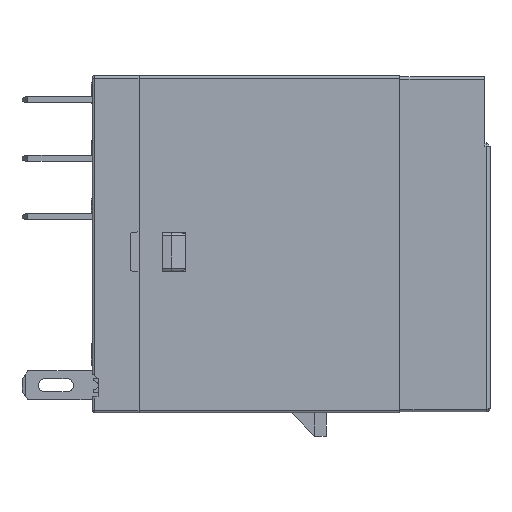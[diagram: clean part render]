
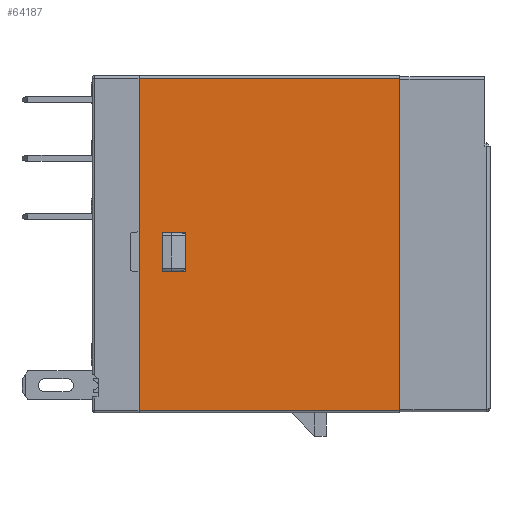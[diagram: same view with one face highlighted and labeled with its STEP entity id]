
A CAD part, front view. The second image highlights one B-rep face of the part: STEP entity #64187.
In plain terms, the highlighted planar face has unit normal (0, -1, 0).
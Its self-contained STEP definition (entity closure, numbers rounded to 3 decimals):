
#324 = ORIENTED_EDGE ( 'NONE', *, *, #40167, .T. ) ;
#2457 = EDGE_CURVE ( 'NONE', #6519, #13397, #52103, .T. ) ;
#5234 = VECTOR ( 'NONE', #54024, 1000. ) ;
#5306 = EDGE_CURVE ( 'NONE', #71646, #74049, #85890, .T. ) ;
#6519 = VERTEX_POINT ( 'NONE', #72333 ) ;
#7344 = DIRECTION ( 'NONE',  ( 0., 0., -1. ) ) ;
#10470 = CARTESIAN_POINT ( 'NONE',  ( -6.324, -27.514, 59.6 ) ) ;
#13138 = CARTESIAN_POINT ( 'NONE',  ( -6.324, -27.514, 59.8 ) ) ;
#13397 = VERTEX_POINT ( 'NONE', #48460 ) ;
#16237 = DIRECTION ( 'NONE',  ( 1., 0., 0. ) ) ;
#16534 = CARTESIAN_POINT ( 'NONE',  ( -6.324, -27.514, 59.6 ) ) ;
#18738 = CARTESIAN_POINT ( 'NONE',  ( -24.624, -27.514, 43.1 ) ) ;
#19669 = ORIENTED_EDGE ( 'NONE', *, *, #66587, .F. ) ;
#20107 = EDGE_CURVE ( 'NONE', #74049, #76875, #72789, .T. ) ;
#22959 = ORIENTED_EDGE ( 'NONE', *, *, #67592, .T. ) ;
#23258 = ORIENTED_EDGE ( 'NONE', *, *, #84662, .F. ) ;
#23944 = VECTOR ( 'NONE', #58121, 1000. ) ;
#25770 = CARTESIAN_POINT ( 'NONE',  ( -6.324, -27.514, 45.4 ) ) ;
#26747 = EDGE_LOOP ( 'NONE', ( #19669, #22959, #35040, #324 ) ) ;
#27872 = CARTESIAN_POINT ( 'NONE',  ( -26.624, -27.514, 43.1 ) ) ;
#28290 = DIRECTION ( 'NONE',  ( 0., 0., -1. ) ) ;
#33444 = CARTESIAN_POINT ( 'NONE',  ( -24.624, -27.514, 43.1 ) ) ;
#34588 = LINE ( 'NONE', #13138, #45970 ) ;
#35040 = ORIENTED_EDGE ( 'NONE', *, *, #2457, .T. ) ;
#35721 = ORIENTED_EDGE ( 'NONE', *, *, #20107, .F. ) ;
#36068 = VECTOR ( 'NONE', #37736, 1000. ) ;
#37267 = VECTOR ( 'NONE', #79512, 1000. ) ;
#37736 = DIRECTION ( 'NONE',  ( -1., 0., 0. ) ) ;
#37885 = CARTESIAN_POINT ( 'NONE',  ( -24.624, -27.514, 43.1 ) ) ;
#40167 = EDGE_CURVE ( 'NONE', #13397, #45352, #43968, .T. ) ;
#42237 = LINE ( 'NONE', #56105, #5234 ) ;
#43083 = CARTESIAN_POINT ( 'NONE',  ( -6.324, -27.514, 31.2 ) ) ;
#43968 = LINE ( 'NONE', #43083, #63991 ) ;
#45352 = VERTEX_POINT ( 'NONE', #51265 ) ;
#45403 = DIRECTION ( 'NONE',  ( 0., 0., -1. ) ) ;
#45970 = VECTOR ( 'NONE', #7344, 1000. ) ;
#48154 = VECTOR ( 'NONE', #45403, 1000. ) ;
#48460 = CARTESIAN_POINT ( 'NONE',  ( -28.624, -27.514, 31.2 ) ) ;
#48841 = CARTESIAN_POINT ( 'NONE',  ( -26.624, -27.514, 46.4 ) ) ;
#51265 = CARTESIAN_POINT ( 'NONE',  ( -6.324, -27.514, 31.2 ) ) ;
#52103 = LINE ( 'NONE', #80288, #48154 ) ;
#54024 = DIRECTION ( 'NONE',  ( -1., 0., 0. ) ) ;
#55326 = EDGE_LOOP ( 'NONE', ( #80762, #35721, #68922, #23258 ) ) ;
#56105 = CARTESIAN_POINT ( 'NONE',  ( -24.624, -27.514, 46.4 ) ) ;
#58121 = DIRECTION ( 'NONE',  ( 1., 0., 0. ) ) ;
#62354 = VECTOR ( 'NONE', #28290, 1000. ) ;
#62442 = VERTEX_POINT ( 'NONE', #16534 ) ;
#63991 = VECTOR ( 'NONE', #16237, 1000. ) ;
#64187 = ADVANCED_FACE ( 'NONE', ( #72306, #86209 ), #87080, .F. ) ;
#64573 = CARTESIAN_POINT ( 'NONE',  ( -24.624, -27.514, 46.4 ) ) ;
#66587 = EDGE_CURVE ( 'NONE', #62442, #45352, #34588, .T. ) ;
#67592 = EDGE_CURVE ( 'NONE', #62442, #6519, #71745, .T. ) ;
#68922 = ORIENTED_EDGE ( 'NONE', *, *, #5306, .F. ) ;
#71646 = VERTEX_POINT ( 'NONE', #27872 ) ;
#71745 = LINE ( 'NONE', #10470, #36068 ) ;
#72306 = FACE_BOUND ( 'NONE', #55326, .T. ) ;
#72333 = CARTESIAN_POINT ( 'NONE',  ( -28.624, -27.514, 59.6 ) ) ;
#72789 = LINE ( 'NONE', #37885, #37267 ) ;
#74049 = VERTEX_POINT ( 'NONE', #33444 ) ;
#76875 = VERTEX_POINT ( 'NONE', #64573 ) ;
#79480 = DIRECTION ( 'NONE',  ( 0., 1., 0. ) ) ;
#79512 = DIRECTION ( 'NONE',  ( 0., 0., 1. ) ) ;
#80288 = CARTESIAN_POINT ( 'NONE',  ( -28.624, -27.514, 45.4 ) ) ;
#80355 = DIRECTION ( 'NONE',  ( 0., 0., 1. ) ) ;
#80762 = ORIENTED_EDGE ( 'NONE', *, *, #84374, .F. ) ;
#81304 = CARTESIAN_POINT ( 'NONE',  ( -26.624, -27.514, 46.4 ) ) ;
#82873 = LINE ( 'NONE', #48841, #62354 ) ;
#83117 = AXIS2_PLACEMENT_3D ( 'NONE', #25770, #79480, #80355 ) ;
#84374 = EDGE_CURVE ( 'NONE', #76875, #85868, #42237, .T. ) ;
#84662 = EDGE_CURVE ( 'NONE', #85868, #71646, #82873, .T. ) ;
#85868 = VERTEX_POINT ( 'NONE', #81304 ) ;
#85890 = LINE ( 'NONE', #18738, #23944 ) ;
#86209 = FACE_OUTER_BOUND ( 'NONE', #26747, .T. ) ;
#87080 = PLANE ( 'NONE',  #83117 ) ;
